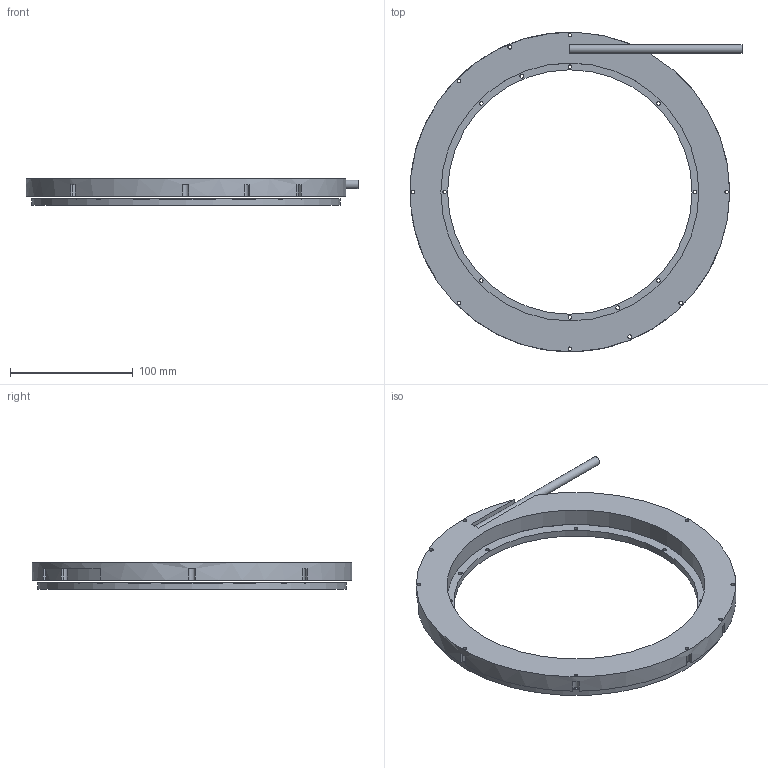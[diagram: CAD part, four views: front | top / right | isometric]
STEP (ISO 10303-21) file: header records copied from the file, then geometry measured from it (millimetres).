
FILE_DESCRIPTION(('STEP AP242'), '1');
FILE_NAME('YA-260', '', ('UNSPECIFIED'), ('UNSPECIFIED'), 'C3D Converter', 'C3D Toolkit', '');
FILE_SCHEMA(('AP242_MANAGED_MODEL_BASED_3D_ENGINEERING_MIM_LF { 1 0 10303 442 1 1 4 }'));
Length unit declared in the file: millimetre
Products named in the file (4): -04
Assembly tree (3 placements, depth 2):
  (unnamed)
    -04
    -04
    (unnamed)
Bounding box: 270 x 259.99 x 21.9 mm (x, y, z)
Volume: 367870 mm3; surface area: 136003.6 mm2
Topology: 3 solids, 3 shells, 798 faces, 2368 edges, 1578 vertices
Faces by surface type: plane 759, cylinder 39
Full cylindrical faces by diameter (mm): 2.9 x15, 3.2 x4, 7 x1, 198.8 x1, 209.8 x1, 215 x2, 249 x2, 251 x1, 260 x1
Entity records: 31442 total; most frequent: DIRECTION 4760, CARTESIAN_POINT 4720, ORIENTED_EDGE 4680, EDGE_CURVE 2340, AXIS2_PLACEMENT_3D 1618, VERTEX_POINT 1578, LINE 1524, VECTOR 1524
